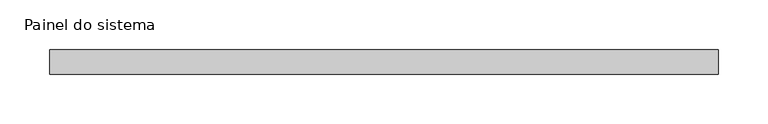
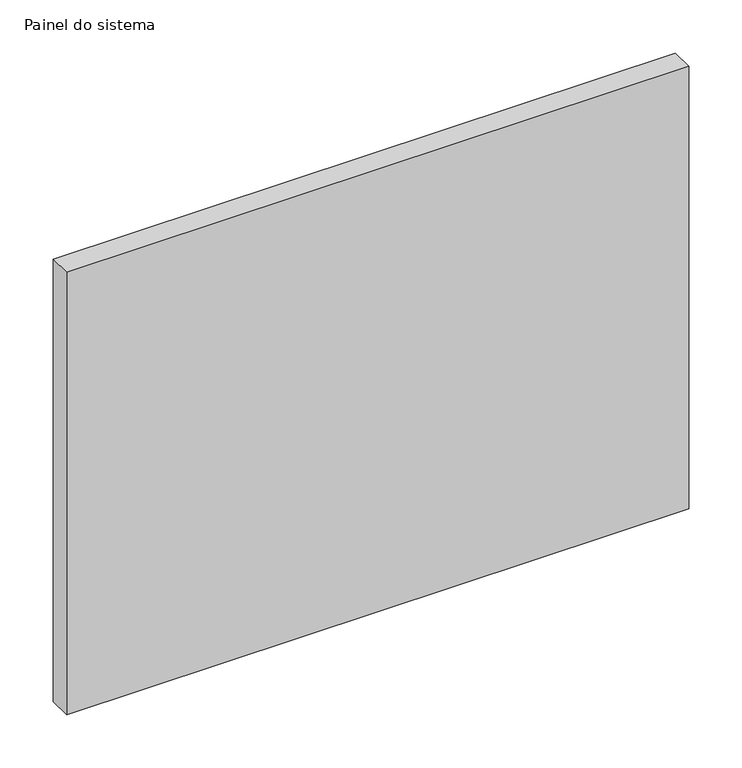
"""IFC4 building model written with IfcOpenShell, lengths in millimetres: plate geometry, Painel do sistema : Envidraçado."""

import ifcopenshell
import ifcopenshell.guid

model = None  # the IFC model being written
_history = None  # IfcOwnerHistory: only IFC2X3 demands one
_inside = {}  # id of a spatial element -> (the spatial element, [elements in it])
_under = {}  # id of a project, library or spatial element -> (it, [spatial elements below it])
_declared = {}  # id of a project -> (the project, [libraries it declares])
_typed = {}  # id of a type object -> (the type object, [elements of that type])
_made_of = {}  # id of a material, layer set ... -> (it, [elements and type objects made of it])


def new_model(schema):
    """Start an empty IFC model of exactly this schema.

    Asked for "IFC4X3", IfcOpenShell would pick the latest addendum, in which some entities
    have other attributes; the version numbers below select the first issue.
    IFC2X3 requires an IfcOwnerHistory on every rooted entity: one is made here for all.
    """
    global model, _history
    if schema == "IFC4X3":
        model = ifcopenshell.file(schema_version=(4, 3, 0, 0))
    else:
        model = ifcopenshell.file(schema=schema)
    _inside.clear()
    _under.clear()
    _declared.clear()
    _typed.clear()
    _made_of.clear()
    _history = None
    if model.schema == "IFC2X3":
        org = make("IfcOrganization", Name="unknown")
        user = make(
            "IfcPersonAndOrganization",
            ThePerson=make("IfcPerson", FamilyName="unknown"),
            TheOrganization=org,
        )
        app = make(
            "IfcApplication",
            ApplicationDeveloper=org,
            Version="unknown",
            ApplicationFullName="unknown",
            ApplicationIdentifier="unknown",
        )
        _history = make(
            "IfcOwnerHistory",
            OwningUser=user,
            OwningApplication=app,
            ChangeAction="ADDED",
            CreationDate=0,
        )
    return model


def make(cls, **values):
    """One entity of the class cls with the attributes given. An attribute that is None is left unset."""
    return model.create_entity(
        cls, **{name: value for name, value in values.items() if value is not None}
    )


def rooted(cls, **values):
    """An entity with a GlobalId (a new one), such as an element, a storey or a relation."""
    return make(cls, GlobalId=ifcopenshell.guid.new(), OwnerHistory=_history, **values)


def si_unit(unit_type, name, prefix=None):
    """IfcSIUnit, for example si_unit("LENGTHUNIT", "METRE", prefix="MILLI")."""
    return make("IfcSIUnit", UnitType=unit_type, Prefix=prefix, Name=name)


def assignment(units):
    """IfcUnitAssignment: the units of a project."""
    return None if units is None else make("IfcUnitAssignment", Units=units)


def point(xyz):
    """IfcCartesianPoint."""
    return None if xyz is None else make("IfcCartesianPoint", Coordinates=xyz)


def direction(xyz):
    """IfcDirection."""
    return None if xyz is None else make("IfcDirection", DirectionRatios=xyz)


def frame(location, z_axis=None, x_axis=None):
    """IfcAxis2Placement3D, a coordinate frame: its origin and axes. An axis left out is left unset."""
    return make(
        "IfcAxis2Placement3D",
        Location=point(location),
        Axis=direction(z_axis),
        RefDirection=direction(x_axis),
    )


def origin():
    """The frame at (0, 0, 0) with its axes left unset."""
    return frame((0.0, 0.0, 0.0))


def origin_with_axes():
    """The frame at (0, 0, 0) with the z axis (0, 0, 1) and the x axis (1, 0, 0) written out."""
    return frame((0.0, 0.0, 0.0), z_axis=(0.0, 0.0, 1.0), x_axis=(1.0, 0.0, 0.0))


def place(relative_to, where):
    """IfcLocalPlacement: puts the frame where relative to a parent placement (None: the world)."""
    return make(
        "IfcLocalPlacement", PlacementRelTo=relative_to, RelativePlacement=where
    )


def context(
    kind, dimensions, precision=None, world=None, true_north=None, identifier=None
):
    """IfcGeometricRepresentationContext, for example the 3D "Model" context."""
    return make(
        "IfcGeometricRepresentationContext",
        ContextIdentifier=identifier,
        ContextType=kind,
        CoordinateSpaceDimension=dimensions,
        Precision=precision,
        WorldCoordinateSystem=world,
        TrueNorth=true_north,
    )


def project(units=None, contexts=None):
    """IfcProject with its units and contexts."""
    return rooted(
        "IfcProject",
        Name="project",
        RepresentationContexts=contexts,
        UnitsInContext=assignment(units),
    )


def spatial(cls, under=None, at=None, **own):
    """A site, building, storey or space (cls), placed at a placement, below another one or the project."""
    s = rooted(cls, ObjectPlacement=at, **own)
    if under is not None:
        _under.setdefault(under.id(), (under, []))[1].append(s)
    return s


def polyline(points):
    """IfcPolyline through the points."""
    return make("IfcPolyline", Points=[point(p) for p in points])


def outline(outer, holes=None, kind="AREA"):
    """IfcArbitraryClosedProfileDef: a profile drawn as a closed curve; with holes, ...WithVoids."""
    if holes is None:
        return make("IfcArbitraryClosedProfileDef", ProfileType=kind, OuterCurve=outer)
    return make(
        "IfcArbitraryProfileDefWithVoids",
        ProfileType=kind,
        OuterCurve=outer,
        InnerCurves=holes,
    )


def extrude(swept, where, along, depth):
    """IfcExtrudedAreaSolid: the profile swept, set in the frame where, extruded along a direction by depth."""
    return make(
        "IfcExtrudedAreaSolid",
        SweptArea=swept,
        Position=where,
        ExtrudedDirection=direction(along),
        Depth=depth,
    )


def shape(context_of_items, identifier, shape_type, items):
    """IfcShapeRepresentation: the items that make up one representation, for example the "Body"."""
    return make(
        "IfcShapeRepresentation",
        ContextOfItems=context_of_items,
        RepresentationIdentifier=identifier,
        RepresentationType=shape_type,
        Items=items,
    )


def source(mapping_origin, context_of_items, identifier, shape_type, items):
    """IfcRepresentationMap: a shape defined once, which mapped items show again and again."""
    return make(
        "IfcRepresentationMap",
        MappingOrigin=mapping_origin,
        MappedRepresentation=shape(context_of_items, identifier, shape_type, items),
    )


def transform(
    local_origin,
    x_axis=None,
    y_axis=None,
    z_axis=None,
    scale=None,
    scale2=None,
    scale3=None,
    uniform=True,
):
    """IfcCartesianTransformationOperator3D, or its non-uniform kind. x_axis, y_axis, z_axis: its Axis1, 2, 3."""
    if uniform:
        return make(
            "IfcCartesianTransformationOperator3D",
            Axis1=direction(x_axis),
            Axis2=direction(y_axis),
            LocalOrigin=point(local_origin),
            Scale=scale,
            Axis3=direction(z_axis),
        )
    return make(
        "IfcCartesianTransformationOperator3DnonUniform",
        Axis1=direction(x_axis),
        Axis2=direction(y_axis),
        LocalOrigin=point(local_origin),
        Scale=scale,
        Axis3=direction(z_axis),
        Scale2=scale2,
        Scale3=scale3,
    )


def mapped(mapping_source, mapping_target):
    """IfcMappedItem: shows the shape of a source again, moved by a transform."""
    return make(
        "IfcMappedItem", MappingSource=mapping_source, MappingTarget=mapping_target
    )


def made_of(thing, what):
    """Note that an element or type object is made of a material, layer set ...; save() writes the relation."""
    if what is not None:
        _made_of.setdefault(what.id(), (what, []))[1].append(thing)
    return thing


def element(
    cls,
    number,
    at=None,
    inside=None,
    cuts=None,
    type_object=None,
    material=None,
    context=None,
    identifier="Body",
    shape_type=None,
    held_by="IfcProductDefinitionShape",
    body=None,
    shapes=None,
    **own,
):
    """One element of the class cls, such as IfcWall. Its Tag is "e" and its number.

    at: its placement. inside: the storey or other place that contains it. cuts: it is an
    opening in that element (IfcRelVoidsElement). A single representation is given by context,
    identifier, shape_type and body (its items); several are given by shapes. held_by: the class
    of the entity that holds the representations. save() writes the other relations.
    """
    e = rooted(cls, Tag="e%d" % number, ObjectPlacement=at, **own)
    if body is not None:
        shapes = [shape(context, identifier, shape_type, body)]
    if shapes is not None:
        e.Representation = make(held_by, Representations=shapes)
    if inside is not None:
        _inside.setdefault(inside.id(), (inside, []))[1].append(e)
    if cuts is not None:
        rooted(
            "IfcRelVoidsElement", RelatingBuildingElement=cuts, RelatedOpeningElement=e
        )
    if type_object is not None:
        _typed.setdefault(type_object.id(), (type_object, []))[1].append(e)
    return made_of(e, material)


def aggregate(whole, parts):
    """IfcRelAggregates: a whole, such as a stair, and the parts it consists of."""
    return rooted("IfcRelAggregates", RelatingObject=whole, RelatedObjects=parts)


def save(model, path):
    """Write the relations noted so far, then the file.

    IfcRelAggregates (storeys below a building ...), IfcRelContainedInSpatialStructure (elements
    in a storey), IfcRelDefinesByType, IfcRelAssociatesMaterial and IfcRelDeclares: one each for
    every whole, place, type object, material and project.
    """
    for whole, parts in _under.values():
        aggregate(whole, parts)
    for where, things in _inside.values():
        rooted(
            "IfcRelContainedInSpatialStructure",
            RelatedElements=things,
            RelatingStructure=where,
        )
    for kind, things in _typed.values():
        rooted("IfcRelDefinesByType", RelatedObjects=things, RelatingType=kind)
    for what, things in _made_of.values():
        rooted("IfcRelAssociatesMaterial", RelatedObjects=things, RelatingMaterial=what)
    for by, libraries in _declared.values():
        rooted("IfcRelDeclares", RelatingContext=by, RelatedDefinitions=libraries)
    model.write(path)


def painel_do_sistema_d70c8913(model_context):
    return source(origin(), model_context, "Body", "SweptSolid", [
        extrude(outline(polyline([(337.5, 24.5), (-337.5, 24.5), (-337.5, 49.5), (337.5, 49.5), (337.5, 24.5)])), origin_with_axes(), (0.0, 0.0, 1.0), 507.5527297),
    ])


if __name__ == "__main__":
    model = new_model("IFC4")
    model_context = context("Model", 3, world=origin())
    ifc_project = project(units=[si_unit("LENGTHUNIT", "METRE", prefix="MILLI")], contexts=[model_context])
    site = spatial("IfcSite", under=ifc_project)
    building = spatial("IfcBuilding", under=site)
    placement = place(None, origin())
    painel_do_sistema_shape = painel_do_sistema_d70c8913(model_context)
    element("IfcPlate", 1, ObjectType="Painel do sistema : Envidraçado", at=placement, inside=building, context=model_context, shape_type="MappedRepresentation", body=[
        mapped(painel_do_sistema_shape, transform((0.0, 0.0, 0.0), x_axis=(1.0, 0.0, 0.0), y_axis=(0.0, 1.0, 0.0), z_axis=(0.0, 0.0, 1.0))),
    ])
    save(model, "model.ifc")
